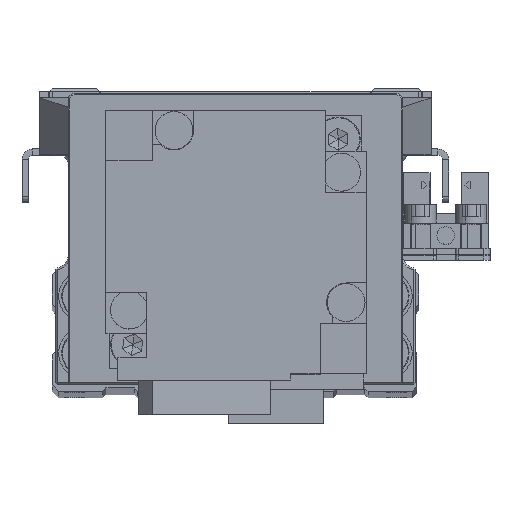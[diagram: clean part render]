
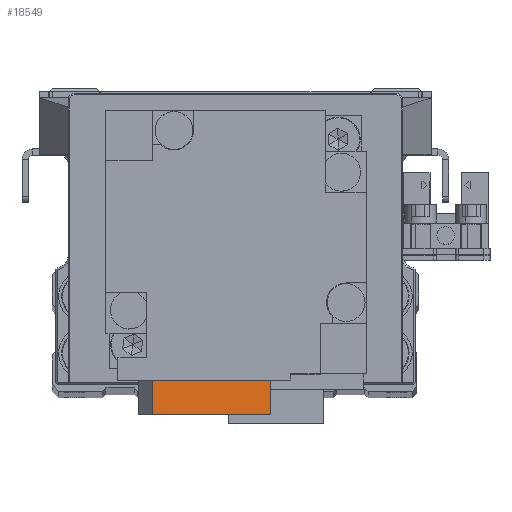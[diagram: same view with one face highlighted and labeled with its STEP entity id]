
A CAD part, top view. The second image highlights one B-rep face of the part: STEP entity #18549.
In plain terms, the highlighted planar face has unit normal (0.156, 0, 0.988) as drawn and (-0.156, 0, -0.988) by its records, which use the part's own axes.
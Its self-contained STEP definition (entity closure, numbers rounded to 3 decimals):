
#660 = DIRECTION ( 'NONE',  ( 0.988, 0., -0.156 ) ) ;
#1617 = VERTEX_POINT ( 'NONE', #33086 ) ;
#4402 = DIRECTION ( 'NONE',  ( 0.156, 0., 0.988 ) ) ;
#4451 = CARTESIAN_POINT ( 'NONE',  ( 13.183, -27.5, -79.096 ) ) ;
#6290 = CARTESIAN_POINT ( 'NONE',  ( 3.8, -27.5, -77.61 ) ) ;
#6930 = CARTESIAN_POINT ( 'NONE',  ( -5.583, -22., -76.124 ) ) ;
#7469 = FACE_OUTER_BOUND ( 'NONE', #27271, .T. ) ;
#7756 = VERTEX_POINT ( 'NONE', #4451 ) ;
#8874 = LINE ( 'NONE', #21216, #22385 ) ;
#10843 = EDGE_CURVE ( 'NONE', #17190, #30555, #16079, .T. ) ;
#12362 = ORIENTED_EDGE ( 'NONE', *, *, #25358, .F. ) ;
#14427 = LINE ( 'NONE', #26784, #23411 ) ;
#15616 = VECTOR ( 'NONE', #18635, 1000. ) ;
#16079 = LINE ( 'NONE', #28434, #30578 ) ;
#16761 = DIRECTION ( 'NONE',  ( 0.988, 0., -0.156 ) ) ;
#16843 = ORIENTED_EDGE ( 'NONE', *, *, #10843, .T. ) ;
#16956 = AXIS2_PLACEMENT_3D ( 'NONE', #32174, #4402, #16761 ) ;
#17190 = VERTEX_POINT ( 'NONE', #6930 ) ;
#18549 = ADVANCED_FACE ( 'NONE', ( #7469 ), #19814, .F. ) ;
#18635 = DIRECTION ( 'NONE',  ( 0.988, 0., -0.156 ) ) ;
#19814 = PLANE ( 'NONE',  #16956 ) ;
#20964 = ORIENTED_EDGE ( 'NONE', *, *, #39262, .F. ) ;
#21216 = CARTESIAN_POINT ( 'NONE',  ( -5.583, -24.75, -76.124 ) ) ;
#22385 = VECTOR ( 'NONE', #33582, 1000. ) ;
#23411 = VECTOR ( 'NONE', #39162, 1000. ) ;
#25358 = EDGE_CURVE ( 'NONE', #17190, #1617, #8874, .T. ) ;
#26784 = CARTESIAN_POINT ( 'NONE',  ( 13.183, -24.75, -79.096 ) ) ;
#27271 = EDGE_LOOP ( 'NONE', ( #27771, #20964, #12362, #16843 ) ) ;
#27771 = ORIENTED_EDGE ( 'NONE', *, *, #38434, .F. ) ;
#28129 = CARTESIAN_POINT ( 'NONE',  ( 13.183, -22., -79.096 ) ) ;
#28434 = CARTESIAN_POINT ( 'NONE',  ( -5.583, -22., -76.124 ) ) ;
#30555 = VERTEX_POINT ( 'NONE', #28129 ) ;
#30578 = VECTOR ( 'NONE', #660, 1000. ) ;
#32174 = CARTESIAN_POINT ( 'NONE',  ( 3.8, -24.75, -77.61 ) ) ;
#33086 = CARTESIAN_POINT ( 'NONE',  ( -5.583, -27.5, -76.124 ) ) ;
#33582 = DIRECTION ( 'NONE',  ( 0., -1., 0. ) ) ;
#34051 = LINE ( 'NONE', #6290, #15616 ) ;
#38434 = EDGE_CURVE ( 'NONE', #7756, #30555, #14427, .T. ) ;
#39162 = DIRECTION ( 'NONE',  ( 0., 1., 0. ) ) ;
#39262 = EDGE_CURVE ( 'NONE', #1617, #7756, #34051, .T. ) ;
